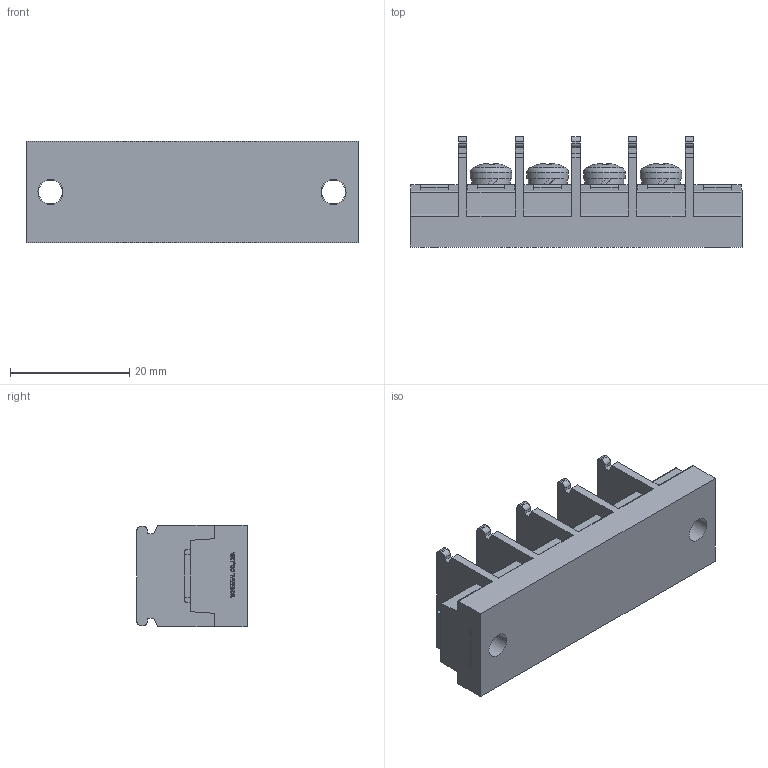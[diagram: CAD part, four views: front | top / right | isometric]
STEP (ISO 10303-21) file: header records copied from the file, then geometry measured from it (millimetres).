
FILE_DESCRIPTION(/* description */ ('Alibre Inc.'),/* implementation_level */ '2;1');
FILE_NAME(/* name */ 'export-600D14F3-3F2B-4045-A6A5-0125F8F5C3CD',/* time_stamp */ '2021-02-02T10:28:27+09:00',/* author */ (''),/* organization */ (''),/* preprocessor_version */ 'ST-DEVELOPER v17',/* originating_system */ 'Alibre',/* authorisation */ '');
FILE_SCHEMA (('CONFIG_CONTROL_DESIGN'));
Length unit declared in the file: millimetre
Bounding box: 55.7 x 18.5 x 17 mm (x, y, z)
Volume: 9496.8 mm3; surface area: 6127.5 mm2
Topology: 1 solids, 5 shells, 720 faces, 1964 edges, 1306 vertices
Faces by surface type: plane 508, bspline 104, cylinder 76, cone 20, torus 8, sphere 4
Full cylindrical faces by diameter (mm): 4 x10, 4.2 x2, 6.5 x4, 7 x4
Entity records: 22071 total; most frequent: CARTESIAN_POINT 4990, ORIENTED_EDGE 3836, DIRECTION 2678, EDGE_CURVE 1918, VECTOR 1402, LINE 1402, VERTEX_POINT 1288, AXIS2_PLACEMENT_3D 892
